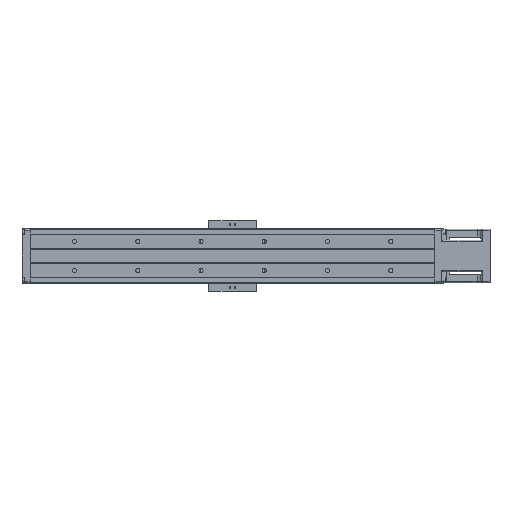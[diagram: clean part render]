
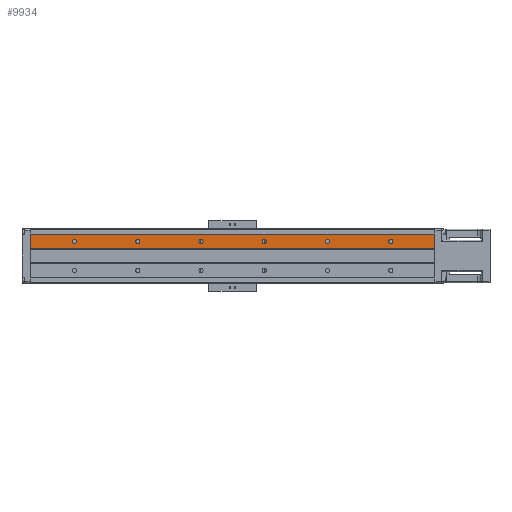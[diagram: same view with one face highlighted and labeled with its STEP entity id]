
A CAD part, front view. The second image highlights one B-rep face of the part: STEP entity #9934.
In plain terms, the highlighted planar face has unit normal (0, -1, 0).
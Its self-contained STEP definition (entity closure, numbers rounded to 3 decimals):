
#235 = DIRECTION ( 'NONE',  ( 0., 0., 1. ) ) ;
#547 = ORIENTED_EDGE ( 'NONE', *, *, #7420, .T. ) ;
#610 = CIRCLE ( 'NONE', #5888, 3.3 ) ;
#668 = DIRECTION ( 'NONE',  ( 0., 0., -1. ) ) ;
#850 = EDGE_LOOP ( 'NONE', ( #22875, #21890 ) ) ;
#1026 = FACE_OUTER_BOUND ( 'NONE', #14831, .T. ) ;
#1629 = CARTESIAN_POINT ( 'NONE',  ( -100., -32., 26.3 ) ) ;
#1699 = CARTESIAN_POINT ( 'NONE',  ( -100., -32., 23. ) ) ;
#1991 = CARTESIAN_POINT ( 'NONE',  ( 100., -32., 26.3 ) ) ;
#2125 = CARTESIAN_POINT ( 'NONE',  ( -200., -32., 26.3 ) ) ;
#2229 = VERTEX_POINT ( 'NONE', #24006 ) ;
#2474 = AXIS2_PLACEMENT_3D ( 'NONE', #9768, #24048, #7561 ) ;
#2691 = EDGE_CURVE ( 'NONE', #21445, #24359, #19272, .T. ) ;
#2722 = ORIENTED_EDGE ( 'NONE', *, *, #3725, .T. ) ;
#3022 = EDGE_CURVE ( 'NONE', #22704, #18107, #6593, .T. ) ;
#3380 = LINE ( 'NONE', #11063, #5283 ) ;
#3725 = EDGE_CURVE ( 'NONE', #2229, #6549, #15736, .T. ) ;
#3869 = EDGE_CURVE ( 'NONE', #21445, #17820, #3380, .T. ) ;
#4058 = CIRCLE ( 'NONE', #22316, 3.3 ) ;
#4410 = DIRECTION ( 'NONE',  ( 0., 0., -1. ) ) ;
#4483 = CARTESIAN_POINT ( 'NONE',  ( -100., -32., 19.7 ) ) ;
#4599 = ORIENTED_EDGE ( 'NONE', *, *, #2691, .T. ) ;
#4620 = DIRECTION ( 'NONE',  ( 0., 0., -1. ) ) ;
#4644 = VERTEX_POINT ( 'NONE', #4483 ) ;
#4657 = DIRECTION ( 'NONE',  ( 0., -1., 0. ) ) ;
#5283 = VECTOR ( 'NONE', #13090, 1000. ) ;
#5397 = VERTEX_POINT ( 'NONE', #17011 ) ;
#5511 = DIRECTION ( 'NONE',  ( 0., 0., -1. ) ) ;
#5605 = CIRCLE ( 'NONE', #6295, 3.3 ) ;
#5726 = DIRECTION ( 'NONE',  ( 0., 0., -1. ) ) ;
#5845 = EDGE_CURVE ( 'NONE', #10318, #5397, #11189, .T. ) ;
#5888 = AXIS2_PLACEMENT_3D ( 'NONE', #8653, #12463, #4410 ) ;
#5950 = ORIENTED_EDGE ( 'NONE', *, *, #11404, .T. ) ;
#6224 = AXIS2_PLACEMENT_3D ( 'NONE', #20807, #16926, #4620 ) ;
#6257 = AXIS2_PLACEMENT_3D ( 'NONE', #18743, #23088, #8663 ) ;
#6295 = AXIS2_PLACEMENT_3D ( 'NONE', #16334, #14471, #16515 ) ;
#6520 = AXIS2_PLACEMENT_3D ( 'NONE', #6703, #23169, #668 ) ;
#6522 = CARTESIAN_POINT ( 'NONE',  ( -300., -32., 19.7 ) ) ;
#6549 = VERTEX_POINT ( 'NONE', #21152 ) ;
#6593 = CIRCLE ( 'NONE', #25885, 3.3 ) ;
#6703 = CARTESIAN_POINT ( 'NONE',  ( -200., -32., 23. ) ) ;
#7401 = AXIS2_PLACEMENT_3D ( 'NONE', #25156, #21137, #11139 ) ;
#7420 = EDGE_CURVE ( 'NONE', #17247, #18266, #5605, .T. ) ;
#7561 = DIRECTION ( 'NONE',  ( 0., 0., -1. ) ) ;
#7648 = CIRCLE ( 'NONE', #20297, 3.3 ) ;
#8074 = CIRCLE ( 'NONE', #16402, 3.3 ) ;
#8653 = CARTESIAN_POINT ( 'NONE',  ( 100., -32., 23. ) ) ;
#8663 = DIRECTION ( 'NONE',  ( 0., 0., -1. ) ) ;
#8788 = ORIENTED_EDGE ( 'NONE', *, *, #22377, .T. ) ;
#8889 = VECTOR ( 'NONE', #235, 1000. ) ;
#8994 = ORIENTED_EDGE ( 'NONE', *, *, #3869, .F. ) ;
#9068 = VERTEX_POINT ( 'NONE', #21693 ) ;
#9323 = VERTEX_POINT ( 'NONE', #20785 ) ;
#9443 = CIRCLE ( 'NONE', #2474, 3.3 ) ;
#9560 = DIRECTION ( 'NONE',  ( 0., 1., 0. ) ) ;
#9706 = DIRECTION ( 'NONE',  ( 0., 1., 0. ) ) ;
#9768 = CARTESIAN_POINT ( 'NONE',  ( -300., -32., 23. ) ) ;
#9868 = CARTESIAN_POINT ( 'NONE',  ( 270., -32., 34. ) ) ;
#9882 = DIRECTION ( 'NONE',  ( 0., 0., -1. ) ) ;
#9883 = CARTESIAN_POINT ( 'NONE',  ( 0., -32., 23. ) ) ;
#9934 = ADVANCED_FACE ( 'NONE', ( #1026, #15916, #26062, #20659, #24166, #11453, #13359 ), #22725, .T. ) ;
#10127 = CARTESIAN_POINT ( 'NONE',  ( -100., -32., 23. ) ) ;
#10263 = VERTEX_POINT ( 'NONE', #1629 ) ;
#10318 = VERTEX_POINT ( 'NONE', #1991 ) ;
#10361 = EDGE_LOOP ( 'NONE', ( #13737, #26290 ) ) ;
#10503 = CARTESIAN_POINT ( 'NONE',  ( 270., -32., 11.5 ) ) ;
#10666 = CARTESIAN_POINT ( 'NONE',  ( 270., -32., -33.6 ) ) ;
#11063 = CARTESIAN_POINT ( 'NONE',  ( -470., -32., 34. ) ) ;
#11139 = DIRECTION ( 'NONE',  ( 0., 0., -1. ) ) ;
#11189 = CIRCLE ( 'NONE', #6257, 3.3 ) ;
#11404 = EDGE_CURVE ( 'NONE', #9323, #17820, #22844, .T. ) ;
#11453 = FACE_BOUND ( 'NONE', #11469, .T. ) ;
#11469 = EDGE_LOOP ( 'NONE', ( #17631, #17407 ) ) ;
#12129 = ORIENTED_EDGE ( 'NONE', *, *, #26118, .T. ) ;
#12291 = ORIENTED_EDGE ( 'NONE', *, *, #12746, .T. ) ;
#12370 = DIRECTION ( 'NONE',  ( 0., 0., -1. ) ) ;
#12463 = DIRECTION ( 'NONE',  ( 0., 1., 0. ) ) ;
#12517 = CIRCLE ( 'NONE', #14308, 3.3 ) ;
#12695 = DIRECTION ( 'NONE',  ( -1., 0., 0. ) ) ;
#12746 = EDGE_CURVE ( 'NONE', #18266, #17247, #25921, .T. ) ;
#12969 = EDGE_CURVE ( 'NONE', #22365, #9068, #9443, .T. ) ;
#13090 = DIRECTION ( 'NONE',  ( 1., 0., 0. ) ) ;
#13138 = EDGE_CURVE ( 'NONE', #4644, #10263, #4058, .T. ) ;
#13359 = FACE_BOUND ( 'NONE', #18607, .T. ) ;
#13737 = ORIENTED_EDGE ( 'NONE', *, *, #16329, .T. ) ;
#14032 = DIRECTION ( 'NONE',  ( 0., 0., -1. ) ) ;
#14308 = AXIS2_PLACEMENT_3D ( 'NONE', #20415, #14328, #12370 ) ;
#14328 = DIRECTION ( 'NONE',  ( 0., 1., 0. ) ) ;
#14384 = DIRECTION ( 'NONE',  ( 0., 1., 0. ) ) ;
#14422 = LINE ( 'NONE', #19355, #16632 ) ;
#14471 = DIRECTION ( 'NONE',  ( 0., 1., 0. ) ) ;
#14776 = EDGE_CURVE ( 'NONE', #24359, #9323, #14422, .T. ) ;
#14831 = EDGE_LOOP ( 'NONE', ( #4599, #17287, #5950, #8994 ) ) ;
#15257 = CARTESIAN_POINT ( 'NONE',  ( 0., -32., 19.7 ) ) ;
#15263 = CIRCLE ( 'NONE', #7401, 3.3 ) ;
#15395 = DIRECTION ( 'NONE',  ( 1., 0., 0. ) ) ;
#15685 = CARTESIAN_POINT ( 'NONE',  ( -200., -32., 19.7 ) ) ;
#15736 = CIRCLE ( 'NONE', #6224, 3.3 ) ;
#15916 = FACE_BOUND ( 'NONE', #18366, .T. ) ;
#16329 = EDGE_CURVE ( 'NONE', #18107, #22704, #15263, .T. ) ;
#16334 = CARTESIAN_POINT ( 'NONE',  ( -200., -32., 23. ) ) ;
#16402 = AXIS2_PLACEMENT_3D ( 'NONE', #1699, #9560, #5511 ) ;
#16515 = DIRECTION ( 'NONE',  ( 0., 0., -1. ) ) ;
#16632 = VECTOR ( 'NONE', #15395, 1000. ) ;
#16926 = DIRECTION ( 'NONE',  ( 0., 1., 0. ) ) ;
#17011 = CARTESIAN_POINT ( 'NONE',  ( 100., -32., 19.7 ) ) ;
#17189 = AXIS2_PLACEMENT_3D ( 'NONE', #10666, #4657, #12695 ) ;
#17247 = VERTEX_POINT ( 'NONE', #2125 ) ;
#17287 = ORIENTED_EDGE ( 'NONE', *, *, #14776, .T. ) ;
#17382 = EDGE_CURVE ( 'NONE', #5397, #10318, #610, .T. ) ;
#17407 = ORIENTED_EDGE ( 'NONE', *, *, #5845, .T. ) ;
#17631 = ORIENTED_EDGE ( 'NONE', *, *, #17382, .T. ) ;
#17820 = VERTEX_POINT ( 'NONE', #9868 ) ;
#18107 = VERTEX_POINT ( 'NONE', #15257 ) ;
#18266 = VERTEX_POINT ( 'NONE', #15685 ) ;
#18366 = EDGE_LOOP ( 'NONE', ( #19225, #12129 ) ) ;
#18607 = EDGE_LOOP ( 'NONE', ( #2722, #8788 ) ) ;
#18663 = CARTESIAN_POINT ( 'NONE',  ( -370., -32., 5.95 ) ) ;
#18743 = CARTESIAN_POINT ( 'NONE',  ( 100., -32., 23. ) ) ;
#18890 = CARTESIAN_POINT ( 'NONE',  ( -370., -32., 34. ) ) ;
#19225 = ORIENTED_EDGE ( 'NONE', *, *, #12969, .T. ) ;
#19272 = LINE ( 'NONE', #18663, #20863 ) ;
#19355 = CARTESIAN_POINT ( 'NONE',  ( -470., -32., 11.5 ) ) ;
#20297 = AXIS2_PLACEMENT_3D ( 'NONE', #26099, #23975, #9882 ) ;
#20415 = CARTESIAN_POINT ( 'NONE',  ( 200., -32., 23. ) ) ;
#20659 = FACE_BOUND ( 'NONE', #850, .T. ) ;
#20705 = DIRECTION ( 'NONE',  ( 0., 0., -1. ) ) ;
#20785 = CARTESIAN_POINT ( 'NONE',  ( 270., -32., 11.5 ) ) ;
#20807 = CARTESIAN_POINT ( 'NONE',  ( 200., -32., 23. ) ) ;
#20863 = VECTOR ( 'NONE', #20705, 1000. ) ;
#21137 = DIRECTION ( 'NONE',  ( 0., 1., 0. ) ) ;
#21152 = CARTESIAN_POINT ( 'NONE',  ( 200., -32., 26.3 ) ) ;
#21445 = VERTEX_POINT ( 'NONE', #18890 ) ;
#21693 = CARTESIAN_POINT ( 'NONE',  ( -300., -32., 26.3 ) ) ;
#21890 = ORIENTED_EDGE ( 'NONE', *, *, #25514, .T. ) ;
#22316 = AXIS2_PLACEMENT_3D ( 'NONE', #10127, #14384, #14032 ) ;
#22365 = VERTEX_POINT ( 'NONE', #6522 ) ;
#22377 = EDGE_CURVE ( 'NONE', #6549, #2229, #12517, .T. ) ;
#22704 = VERTEX_POINT ( 'NONE', #23689 ) ;
#22725 = PLANE ( 'NONE',  #17189 ) ;
#22844 = LINE ( 'NONE', #10503, #8889 ) ;
#22875 = ORIENTED_EDGE ( 'NONE', *, *, #13138, .T. ) ;
#23088 = DIRECTION ( 'NONE',  ( 0., 1., 0. ) ) ;
#23169 = DIRECTION ( 'NONE',  ( 0., 1., 0. ) ) ;
#23340 = EDGE_LOOP ( 'NONE', ( #12291, #547 ) ) ;
#23522 = CARTESIAN_POINT ( 'NONE',  ( -370., -32., 11.5 ) ) ;
#23689 = CARTESIAN_POINT ( 'NONE',  ( 0., -32., 26.3 ) ) ;
#23975 = DIRECTION ( 'NONE',  ( 0., 1., 0. ) ) ;
#24006 = CARTESIAN_POINT ( 'NONE',  ( 200., -32., 19.7 ) ) ;
#24048 = DIRECTION ( 'NONE',  ( 0., 1., 0. ) ) ;
#24166 = FACE_BOUND ( 'NONE', #10361, .T. ) ;
#24359 = VERTEX_POINT ( 'NONE', #23522 ) ;
#25156 = CARTESIAN_POINT ( 'NONE',  ( 0., -32., 23. ) ) ;
#25514 = EDGE_CURVE ( 'NONE', #10263, #4644, #8074, .T. ) ;
#25885 = AXIS2_PLACEMENT_3D ( 'NONE', #9883, #9706, #5726 ) ;
#25921 = CIRCLE ( 'NONE', #6520, 3.3 ) ;
#26062 = FACE_BOUND ( 'NONE', #23340, .T. ) ;
#26099 = CARTESIAN_POINT ( 'NONE',  ( -300., -32., 23. ) ) ;
#26118 = EDGE_CURVE ( 'NONE', #9068, #22365, #7648, .T. ) ;
#26290 = ORIENTED_EDGE ( 'NONE', *, *, #3022, .T. ) ;
